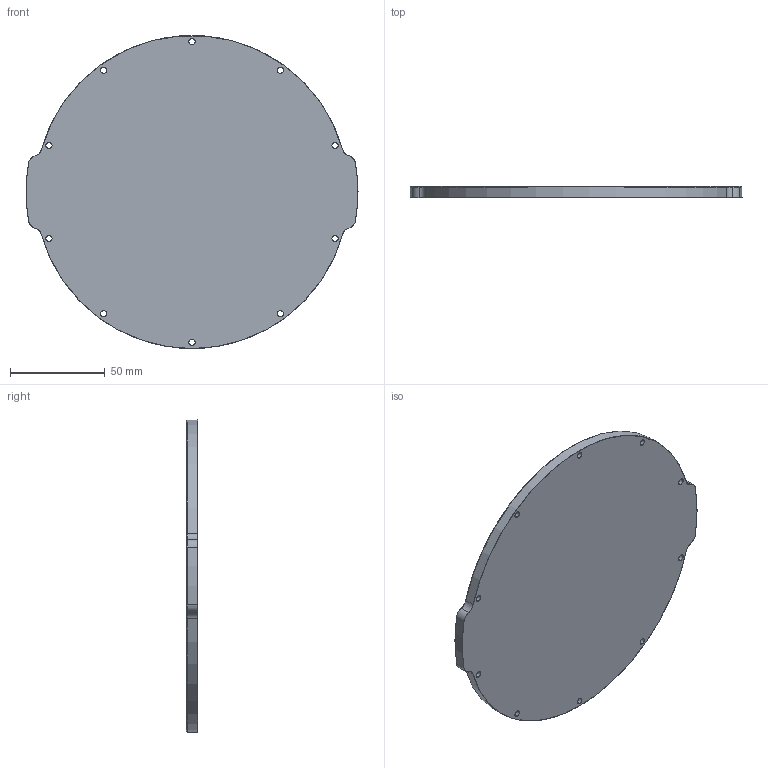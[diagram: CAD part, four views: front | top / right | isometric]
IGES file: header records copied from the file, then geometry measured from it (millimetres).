
Start section: SolidWorks IGES file using analytic representation for surfaces
Global section: file name: C:\Users\Achilles\Dropbox\BR-Engineering\PROJECTS\WTE6\MODELS\DEVELOPMENT\WTE6-M-END-CAP-R1\WTE6-M-END-CAP-R1.IGS; native system: SolidWorks 2016; preprocessor: SolidWorks 2016; author: Achilles; date: 181016.155859; units: millimetre
Bounding box: 175.1 x 6 x 165.1 mm (x, y, z)
Surface area: 47061.8 mm2 (no closed solid volume)
Topology: 0 solids, 0 shells, 48 faces, 712 edges, 712 vertices
Faces by surface type: revolution 46, bspline 2
